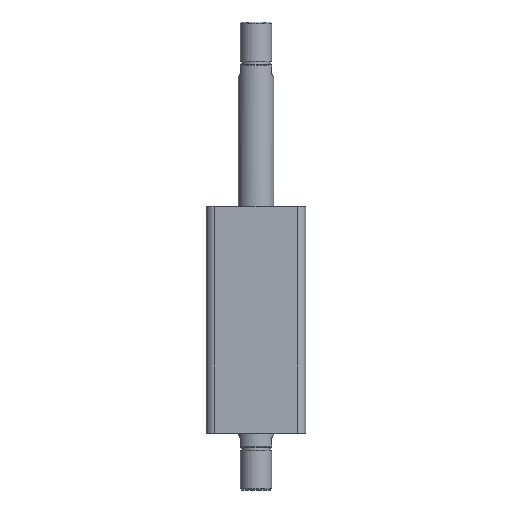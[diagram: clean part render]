
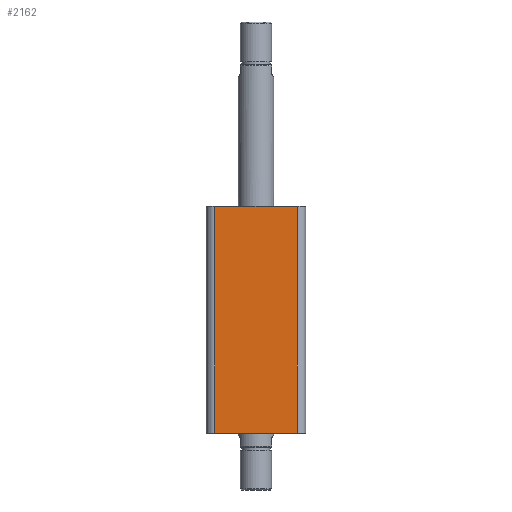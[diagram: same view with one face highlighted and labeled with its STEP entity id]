
A CAD part, front view. The second image highlights one B-rep face of the part: STEP entity #2162.
In plain terms, the highlighted planar face has unit normal (0, -1, 0).
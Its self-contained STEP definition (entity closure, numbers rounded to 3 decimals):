
#78 = PLANE ( 'NONE',  #2679 ) ;
#80 = CARTESIAN_POINT ( 'NONE',  ( -35., -35., 160. ) ) ;
#81 = DIRECTION ( 'NONE',  ( 0., 1., 0. ) ) ;
#82 = DIRECTION ( 'NONE',  ( 0., 0., 1. ) ) ;
#359 = CARTESIAN_POINT ( 'NONE',  ( 29., -35., 160. ) ) ;
#363 = CARTESIAN_POINT ( 'NONE',  ( 29., -35., 0. ) ) ;
#369 = CARTESIAN_POINT ( 'NONE',  ( -29., -35., 0. ) ) ;
#675 = CARTESIAN_POINT ( 'NONE',  ( -35., -35., 0. ) ) ;
#681 = CARTESIAN_POINT ( 'NONE',  ( 29., -35., 160. ) ) ;
#682 = DIRECTION ( 'NONE',  ( 0., 0., 1. ) ) ;
#683 = DIRECTION ( 'NONE',  ( 1., 0., 0. ) ) ;
#684 = CARTESIAN_POINT ( 'NONE',  ( -29., -35., 160. ) ) ;
#685 = DIRECTION ( 'NONE',  ( 0., 0., -1. ) ) ;
#686 = CARTESIAN_POINT ( 'NONE',  ( -35., -35., 160. ) ) ;
#687 = DIRECTION ( 'NONE',  ( 1., 0., 0. ) ) ;
#941 = VERTEX_POINT ( 'NONE', #363 ) ;
#942 = VERTEX_POINT ( 'NONE', #369 ) ;
#945 = VERTEX_POINT ( 'NONE', #359 ) ;
#1016 = FACE_OUTER_BOUND ( 'NONE', #3258, .T. ) ;
#1565 = CARTESIAN_POINT ( 'NONE',  ( -29., -35., 160. ) ) ;
#1741 = LINE ( 'NONE', #681, #1742 ) ;
#1742 = VECTOR ( 'NONE', #682, 1000. ) ;
#1743 = LINE ( 'NONE', #684, #1747 ) ;
#1744 = LINE ( 'NONE', #675, #1745 ) ;
#1745 = VECTOR ( 'NONE', #683, 1000. ) ;
#1746 = LINE ( 'NONE', #686, #1749 ) ;
#1747 = VECTOR ( 'NONE', #685, 1000. ) ;
#1749 = VECTOR ( 'NONE', #687, 1000. ) ;
#2162 = ADVANCED_FACE ( 'NONE', ( #1016 ), #78, .F. ) ;
#2465 = EDGE_CURVE ( 'NONE', #941, #945, #1741, .T. ) ;
#2466 = EDGE_CURVE ( 'NONE', #942, #941, #1744, .T. ) ;
#2467 = EDGE_CURVE ( 'NONE', #3149, #942, #1743, .T. ) ;
#2468 = EDGE_CURVE ( 'NONE', #3149, #945, #1746, .T. ) ;
#2679 = AXIS2_PLACEMENT_3D ( 'NONE', #80, #81, #82 ) ;
#3040 = ORIENTED_EDGE ( 'NONE', *, *, #2465, .T. ) ;
#3070 = ORIENTED_EDGE ( 'NONE', *, *, #2466, .T. ) ;
#3071 = ORIENTED_EDGE ( 'NONE', *, *, #2467, .T. ) ;
#3072 = ORIENTED_EDGE ( 'NONE', *, *, #2468, .F. ) ;
#3149 = VERTEX_POINT ( 'NONE', #1565 ) ;
#3258 = EDGE_LOOP ( 'NONE', ( #3072, #3071, #3070, #3040 ) ) ;
